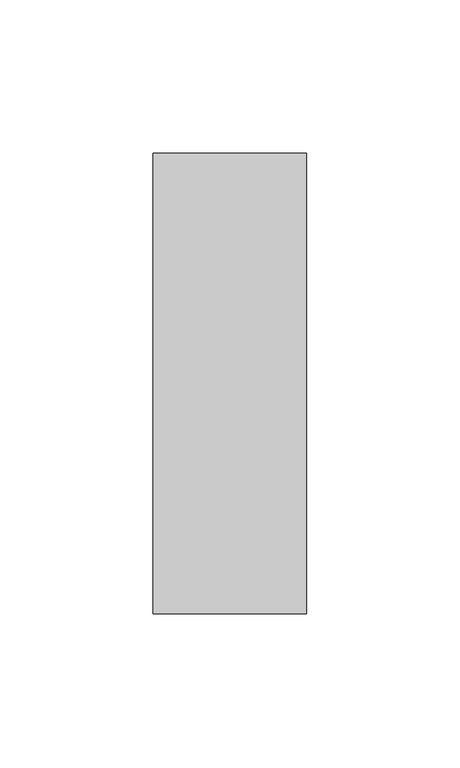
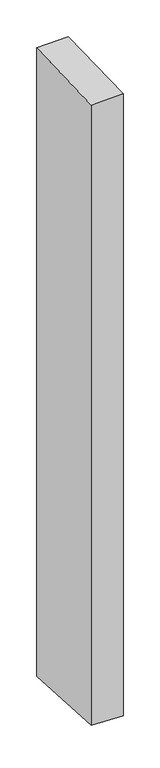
"""IFC4 building model written with IfcOpenShell, lengths in millimetres: member geometry, Прямоугольный импост : 50 x 150 мм."""

from ifc_helpers import new_model, si_unit, origin, place, context, project, spatial, faceted_brep, source, transform, mapped, element, save


def member_aab6699e(model_context):
    return source(origin(), model_context, "Body", "Brep", [
        faceted_brep([(-25.0, 75.0, 1.7931101), (25.0, 75.0, 2.982526), (25.0, 75.0, -1049.2559309), (-25.0, 75.0, -1048.0056041), (-25.0, -75.0, -2.982526), (-25.0, -75.0, -1038.914513), (25.0, -75.0, -1.7931101), (25.0, -75.0, -1040.1648398)], [[[0, 1, 2, 3]], [[4, 0, 3, 5]], [[6, 4, 5, 7]], [[1, 6, 7, 2]], [[1, 0, 4, 6]], [[2, 7, 5, 3]]]),
    ])


if __name__ == "__main__":
    model = new_model("IFC4")
    model_context = context("Model", 3, world=origin())
    ifc_project = project(units=[si_unit("LENGTHUNIT", "METRE", prefix="MILLI")], contexts=[model_context])
    site = spatial("IfcSite", under=ifc_project)
    building = spatial("IfcBuilding", under=site)
    placement = place(None, origin())
    member_shape = member_aab6699e(model_context)
    element("IfcMember", 1, ObjectType="Прямоугольный импост : 50 x 150 мм", at=placement, inside=building, context=model_context, shape_type="MappedRepresentation", body=[
        mapped(member_shape, transform((0.0, 0.0, 0.0), x_axis=(1.0, 0.0, 0.0), y_axis=(0.0, 1.0, 0.0), z_axis=(0.0, 0.0, 1.0))),
    ])
    save(model, "model.ifc")
